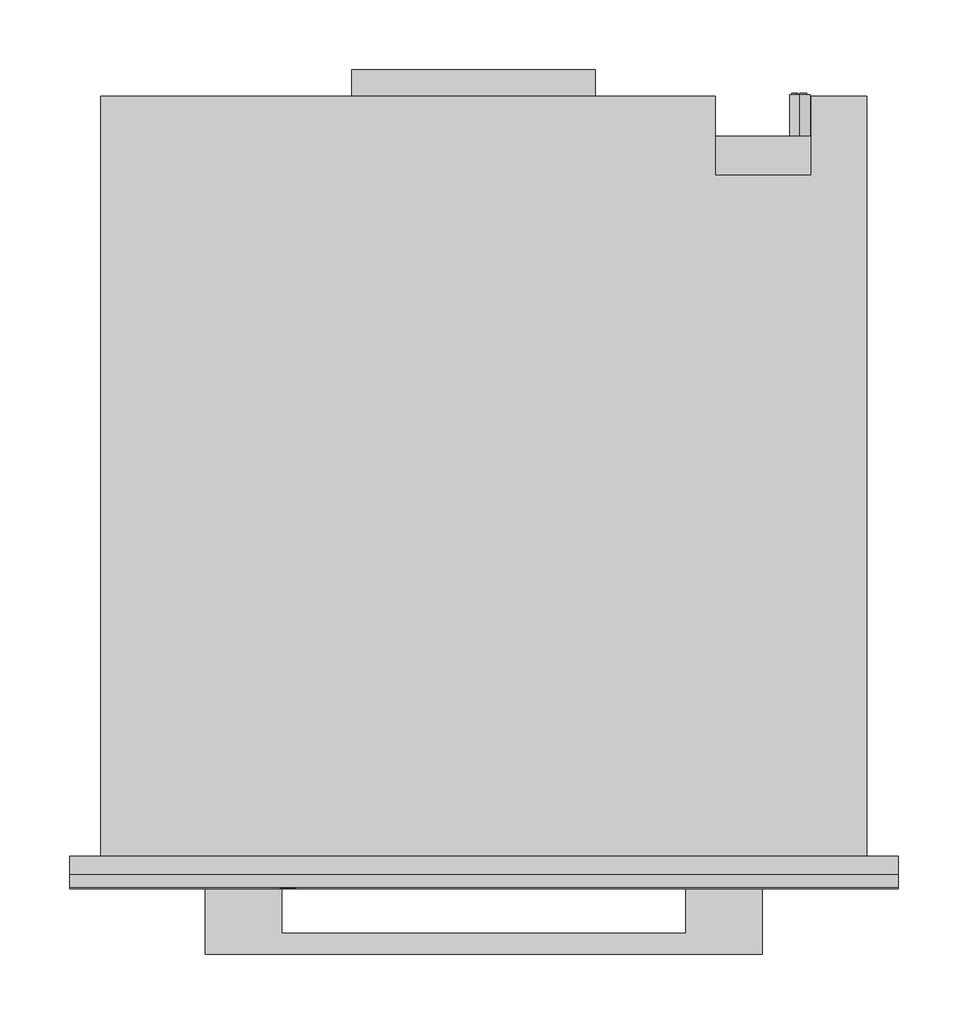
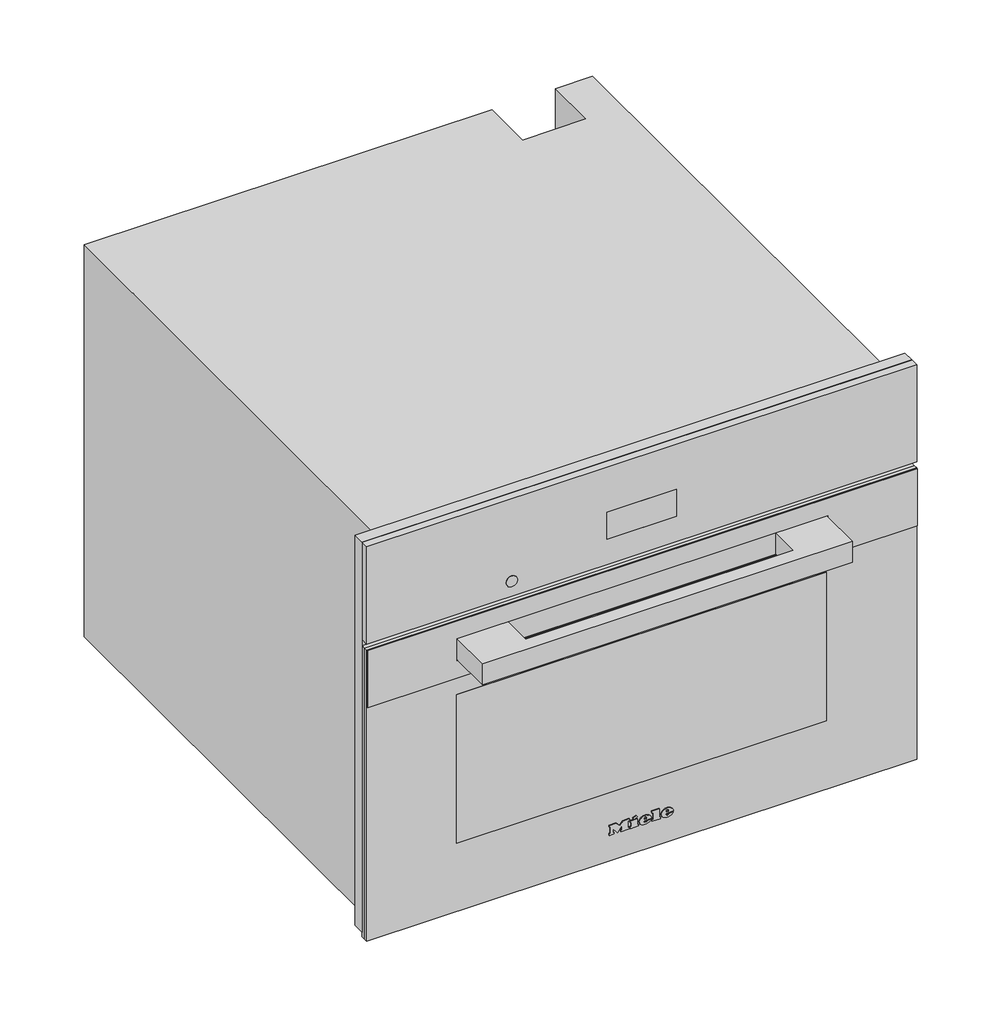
# Not in any storey: 1 proxy.
"""IFC4 building model written with IfcOpenShell, lengths in millimetres."""

import ifcopenshell
import ifcopenshell.guid

model = None  # the IFC model being written
_history = None  # IfcOwnerHistory: only IFC2X3 demands one
_inside = {}  # id of a spatial element -> (the spatial element, [elements in it])
_under = {}  # id of a project, library or spatial element -> (it, [spatial elements below it])
_declared = {}  # id of a project -> (the project, [libraries it declares])
_typed = {}  # id of a type object -> (the type object, [elements of that type])
_made_of = {}  # id of a material, layer set ... -> (it, [elements and type objects made of it])


def new_model(schema):
    """Start an empty IFC model of exactly this schema.

    Asked for "IFC4X3", IfcOpenShell would pick the latest addendum, in which some entities
    have other attributes; the version numbers below select the first issue.
    IFC2X3 requires an IfcOwnerHistory on every rooted entity: one is made here for all.
    """
    global model, _history
    if schema == "IFC4X3":
        model = ifcopenshell.file(schema_version=(4, 3, 0, 0))
    else:
        model = ifcopenshell.file(schema=schema)
    _inside.clear()
    _under.clear()
    _declared.clear()
    _typed.clear()
    _made_of.clear()
    _history = None
    if model.schema == "IFC2X3":
        org = make("IfcOrganization", Name="unknown")
        user = make(
            "IfcPersonAndOrganization",
            ThePerson=make("IfcPerson", FamilyName="unknown"),
            TheOrganization=org,
        )
        app = make(
            "IfcApplication",
            ApplicationDeveloper=org,
            Version="unknown",
            ApplicationFullName="unknown",
            ApplicationIdentifier="unknown",
        )
        _history = make(
            "IfcOwnerHistory",
            OwningUser=user,
            OwningApplication=app,
            ChangeAction="ADDED",
            CreationDate=0,
        )
    return model


def make(cls, **values):
    """One entity of the class cls with the attributes given. An attribute that is None is left unset."""
    return model.create_entity(
        cls, **{name: value for name, value in values.items() if value is not None}
    )


def rooted(cls, **values):
    """An entity with a GlobalId (a new one), such as an element, a storey or a relation."""
    return make(cls, GlobalId=ifcopenshell.guid.new(), OwnerHistory=_history, **values)


def si_unit(unit_type, name, prefix=None):
    """IfcSIUnit, for example si_unit("LENGTHUNIT", "METRE", prefix="MILLI")."""
    return make("IfcSIUnit", UnitType=unit_type, Prefix=prefix, Name=name)


def assignment(units):
    """IfcUnitAssignment: the units of a project."""
    return None if units is None else make("IfcUnitAssignment", Units=units)


def point(xyz):
    """IfcCartesianPoint."""
    return None if xyz is None else make("IfcCartesianPoint", Coordinates=xyz)


def direction(xyz):
    """IfcDirection."""
    return None if xyz is None else make("IfcDirection", DirectionRatios=xyz)


def frame(location, z_axis=None, x_axis=None):
    """IfcAxis2Placement3D, a coordinate frame: its origin and axes. An axis left out is left unset."""
    return make(
        "IfcAxis2Placement3D",
        Location=point(location),
        Axis=direction(z_axis),
        RefDirection=direction(x_axis),
    )


def frame_2d(location, x_axis=None):
    """IfcAxis2Placement2D, a coordinate frame in the plane: its origin and x axis."""
    return make(
        "IfcAxis2Placement2D", Location=point(location), RefDirection=direction(x_axis)
    )


def origin():
    """The frame at (0, 0, 0) with its axes left unset."""
    return frame((0.0, 0.0, 0.0))


def place(relative_to, where):
    """IfcLocalPlacement: puts the frame where relative to a parent placement (None: the world)."""
    return make(
        "IfcLocalPlacement", PlacementRelTo=relative_to, RelativePlacement=where
    )


def context(
    kind, dimensions, precision=None, world=None, true_north=None, identifier=None
):
    """IfcGeometricRepresentationContext, for example the 3D "Model" context."""
    return make(
        "IfcGeometricRepresentationContext",
        ContextIdentifier=identifier,
        ContextType=kind,
        CoordinateSpaceDimension=dimensions,
        Precision=precision,
        WorldCoordinateSystem=world,
        TrueNorth=true_north,
    )


def project(units=None, contexts=None):
    """IfcProject with its units and contexts."""
    return rooted(
        "IfcProject",
        Name="project",
        RepresentationContexts=contexts,
        UnitsInContext=assignment(units),
    )


def spatial(cls, under=None, at=None, **own):
    """A site, building, storey or space (cls), placed at a placement, below another one or the project."""
    s = rooted(cls, ObjectPlacement=at, **own)
    if under is not None:
        _under.setdefault(under.id(), (under, []))[1].append(s)
    return s


def polyline(points):
    """IfcPolyline through the points."""
    return make("IfcPolyline", Points=[point(p) for p in points])


def circle_curve(where, radius):
    """IfcCircle in the frame where."""
    return make("IfcCircle", Position=where, Radius=radius)


def ellipse_curve(where, semi_axis1, semi_axis2):
    """IfcEllipse in the frame where."""
    return make(
        "IfcEllipse", Position=where, SemiAxis1=semi_axis1, SemiAxis2=semi_axis2
    )


def trimmed(basis, trim1, trim2, sense, master):
    """IfcTrimmedCurve: the piece of a basis curve between two trims."""
    return make(
        "IfcTrimmedCurve",
        BasisCurve=basis,
        Trim1=trim1,
        Trim2=trim2,
        SenseAgreement=sense,
        MasterRepresentation=master,
    )


def segment(curve, same_sense, transition):
    """IfcCompositeCurveSegment."""
    return make(
        "IfcCompositeCurveSegment",
        Transition=transition,
        SameSense=same_sense,
        ParentCurve=curve,
    )


def composite_curve(segments, self_intersect=None):
    """IfcCompositeCurve: segments joined end to end."""
    return make("IfcCompositeCurve", Segments=segments, SelfIntersect=self_intersect)


def outline(outer, holes=None, kind="AREA"):
    """IfcArbitraryClosedProfileDef: a profile drawn as a closed curve; with holes, ...WithVoids."""
    if holes is None:
        return make("IfcArbitraryClosedProfileDef", ProfileType=kind, OuterCurve=outer)
    return make(
        "IfcArbitraryProfileDefWithVoids",
        ProfileType=kind,
        OuterCurve=outer,
        InnerCurves=holes,
    )


def extrude(swept, where, along, depth):
    """IfcExtrudedAreaSolid: the profile swept, set in the frame where, extruded along a direction by depth."""
    return make(
        "IfcExtrudedAreaSolid",
        SweptArea=swept,
        Position=where,
        ExtrudedDirection=direction(along),
        Depth=depth,
    )


def faces_of(points, faces, orient=None, outer=None):
    """IfcFace entities. A face is a list of loops; a loop is a list of indices into points, from 0.

    orient and outer hold one flag for each loop. By default every Orientation is true, the
    first loop of a face is its IfcFaceOuterBound and the others are IfcFaceBound.
    """
    made = []
    for i, loops in enumerate(faces):
        bounds = []
        for j, loop in enumerate(loops):
            is_outer = j == 0 if outer is None else outer[i][j]
            bounds.append(
                make(
                    "IfcFaceOuterBound" if is_outer else "IfcFaceBound",
                    Bound=make("IfcPolyLoop", Polygon=[points[k] for k in loop]),
                    Orientation=True if orient is None else orient[i][j],
                )
            )
        made.append(make("IfcFace", Bounds=bounds))
    return made


def faceted_brep(points, faces, orient=None, outer=None, voids=None):
    """IfcFacetedBrep: a solid bounded by flat faces; with voids (closed shells), ...WithVoids."""
    shared = [point(p) for p in points]
    hull = make("IfcClosedShell", CfsFaces=faces_of(shared, faces, orient, outer))
    if voids is None:
        return make("IfcFacetedBrep", Outer=hull)
    return make(
        "IfcFacetedBrepWithVoids",
        Outer=hull,
        Voids=[
            make(cls, CfsFaces=faces_of(shared, fs, o, b)) for cls, fs, o, b in voids
        ],
    )


def shape(context_of_items, identifier, shape_type, items):
    """IfcShapeRepresentation: the items that make up one representation, for example the "Body"."""
    return make(
        "IfcShapeRepresentation",
        ContextOfItems=context_of_items,
        RepresentationIdentifier=identifier,
        RepresentationType=shape_type,
        Items=items,
    )


def source(mapping_origin, context_of_items, identifier, shape_type, items):
    """IfcRepresentationMap: a shape defined once, which mapped items show again and again."""
    return make(
        "IfcRepresentationMap",
        MappingOrigin=mapping_origin,
        MappedRepresentation=shape(context_of_items, identifier, shape_type, items),
    )


def transform(
    local_origin,
    x_axis=None,
    y_axis=None,
    z_axis=None,
    scale=None,
    scale2=None,
    scale3=None,
    uniform=True,
):
    """IfcCartesianTransformationOperator3D, or its non-uniform kind. x_axis, y_axis, z_axis: its Axis1, 2, 3."""
    if uniform:
        return make(
            "IfcCartesianTransformationOperator3D",
            Axis1=direction(x_axis),
            Axis2=direction(y_axis),
            LocalOrigin=point(local_origin),
            Scale=scale,
            Axis3=direction(z_axis),
        )
    return make(
        "IfcCartesianTransformationOperator3DnonUniform",
        Axis1=direction(x_axis),
        Axis2=direction(y_axis),
        LocalOrigin=point(local_origin),
        Scale=scale,
        Axis3=direction(z_axis),
        Scale2=scale2,
        Scale3=scale3,
    )


def mapped(mapping_source, mapping_target):
    """IfcMappedItem: shows the shape of a source again, moved by a transform."""
    return make(
        "IfcMappedItem", MappingSource=mapping_source, MappingTarget=mapping_target
    )


def made_of(thing, what):
    """Note that an element or type object is made of a material, layer set ...; save() writes the relation."""
    if what is not None:
        _made_of.setdefault(what.id(), (what, []))[1].append(thing)
    return thing


def element(
    cls,
    number,
    at=None,
    inside=None,
    cuts=None,
    type_object=None,
    material=None,
    context=None,
    identifier="Body",
    shape_type=None,
    held_by="IfcProductDefinitionShape",
    body=None,
    shapes=None,
    **own,
):
    """One element of the class cls, such as IfcWall. Its Tag is "e" and its number.

    at: its placement. inside: the storey or other place that contains it. cuts: it is an
    opening in that element (IfcRelVoidsElement). A single representation is given by context,
    identifier, shape_type and body (its items); several are given by shapes. held_by: the class
    of the entity that holds the representations. save() writes the other relations.
    """
    e = rooted(cls, Tag="e%d" % number, ObjectPlacement=at, **own)
    if body is not None:
        shapes = [shape(context, identifier, shape_type, body)]
    if shapes is not None:
        e.Representation = make(held_by, Representations=shapes)
    if inside is not None:
        _inside.setdefault(inside.id(), (inside, []))[1].append(e)
    if cuts is not None:
        rooted(
            "IfcRelVoidsElement", RelatingBuildingElement=cuts, RelatedOpeningElement=e
        )
    if type_object is not None:
        _typed.setdefault(type_object.id(), (type_object, []))[1].append(e)
    return made_of(e, material)


def aggregate(whole, parts):
    """IfcRelAggregates: a whole, such as a stair, and the parts it consists of."""
    return rooted("IfcRelAggregates", RelatingObject=whole, RelatedObjects=parts)


def save(model, path):
    """Write the relations noted so far, then the file.

    IfcRelAggregates (storeys below a building ...), IfcRelContainedInSpatialStructure (elements
    in a storey), IfcRelDefinesByType, IfcRelAssociatesMaterial and IfcRelDeclares: one each for
    every whole, place, type object, material and project.
    """
    for whole, parts in _under.values():
        aggregate(whole, parts)
    for where, things in _inside.values():
        rooted(
            "IfcRelContainedInSpatialStructure",
            RelatedElements=things,
            RelatingStructure=where,
        )
    for kind, things in _typed.values():
        rooted("IfcRelDefinesByType", RelatedObjects=things, RelatingType=kind)
    for what, things in _made_of.values():
        rooted("IfcRelAssociatesMaterial", RelatedObjects=things, RelatingMaterial=what)
    for by, libraries in _declared.values():
        rooted("IfcRelDeclares", RelatingContext=by, RelatedDefinitions=libraries)
    model.write(path)


def plane_surface(at):
    """IfcPlane: the flat surface through the origin of the frame at, square to its z axis."""
    return make("IfcPlane", Position=at)


def cylinder_surface(at, radius):
    """IfcCylindricalSurface: all points at the distance radius from the z axis of the frame at."""
    return make("IfcCylindricalSurface", Position=at, Radius=radius)


def revolved_surface(curve, axis_point, axis_direction):
    """IfcSurfaceOfRevolution: the curve turned about the line through axis_point along axis_direction."""
    return make(
        "IfcSurfaceOfRevolution",
        SweptCurve=make("IfcArbitraryOpenProfileDef", ProfileType="CURVE", Curve=curve),
        AxisPosition=make("IfcAxis1Placement", Location=point(axis_point), Axis=direction(axis_direction)),
    )


def extruded_surface(curve, direction_of_extrusion, depth):
    """IfcSurfaceOfLinearExtrusion: the curve pushed along a direction by depth."""
    return make(
        "IfcSurfaceOfLinearExtrusion",
        SweptCurve=make("IfcArbitraryOpenProfileDef", ProfileType="CURVE", Curve=curve),
        ExtrudedDirection=direction(direction_of_extrusion),
        Depth=depth,
    )


def advanced_brep(points, edges, surfaces, faces):
    """IfcAdvancedBrep: a solid bounded by faces that lie on surfaces and meet in shared edges.

    An edge is (start, end): straight between two places in points (the first is 0);
    or (start, end, curve); or (start, end, curve, False) where it runs against its curve.
    A face is (place in surfaces, loops), or (place, loops, False) where it looks against
    its surface's normal. A loop lists edges by number (the first is 1), with a minus sign
    where the edge is run from its end to its start. The first loop is the outer one.
    """
    corners = [point(p) for p in points]
    vertices = [make("IfcVertexPoint", VertexGeometry=c) for c in corners]
    made = []
    for start, end, *more in edges:
        made.append(
            make(
                "IfcEdgeCurve",
                EdgeStart=vertices[start],
                EdgeEnd=vertices[end],
                EdgeGeometry=more[0] if more else make("IfcPolyline", Points=[corners[start], corners[end]]),
                SameSense=more[1] if len(more) > 1 else True,
            )
        )
    hull = []
    for where, loops, *sense in faces:
        bounds = []
        for j, loop in enumerate(loops):
            ring = [make("IfcOrientedEdge", EdgeElement=made[abs(k) - 1], Orientation=k > 0) for k in loop]
            bounds.append(
                make(
                    "IfcFaceOuterBound" if j == 0 else "IfcFaceBound",
                    Bound=make("IfcEdgeLoop", EdgeList=ring),
                    Orientation=True,
                )
            )
        hull.append(make("IfcAdvancedFace", Bounds=bounds, FaceSurface=surfaces[where], SameSense=sense[0] if sense else True))
    return make("IfcAdvancedBrep", Outer=make("IfcClosedShell", CfsFaces=hull))


def specialty_equipment_a3e2d18e(model_context):
    return source(origin(), model_context, "Body", "SolidModel", [
        extrude(outline(polyline([(455.0, 297.5), (455.0, -297.5), (9.0, -297.5), (9.0, 297.5), (455.0, 297.5)]), holes=[polyline([(344.0, -272.5), (344.0, 272.5), (27.0, 272.5), (27.0, -272.5), (344.0, -272.5)])]), frame((0.0, -13.0, 0.0), z_axis=(0.0, 1.0, 0.0), x_axis=(0.0, 0.0, 1.0)), (0.0, 0.0, 1.0), 13.0),
        extrude(outline(polyline([(-95.0, 565.0), (80.0, 565.0), (80.0, 546.0), (-95.0, 546.0), (-95.0, 565.0)])), frame((0.0, 0.0, 260.0), z_axis=(0.0, 0.0, 1.0), x_axis=(1.0, 0.0, 0.0)), (0.0, 0.0, 1.0), 1.0),
        advanced_brep(
        [(227.0, 547.0, 255.5), (227.0, 547.0, 240.5), (221.4098301, 547.0, 243.0), (225.5, 547.0, 243.0), (225.5, 547.0, 253.0), (224.4955303, 547.0, 253.0), (224.4955303, 547.0, 244.0), (221.0315043, 547.0, 244.0), (221.0315043, 547.0, 243.4582978), (232.0, 547.0, 243.0), (232.0, 547.0, 253.0), (227.0, 547.0, 253.0), (227.0, 547.0, 252.0), (231.0, 547.0, 252.0), (231.0, 547.0, 248.5), (228.0, 547.0, 248.5), (228.0, 547.0, 247.5), (231.0, 547.0, 247.5), (231.0, 547.0, 244.0), (227.0, 547.0, 244.0), (227.0, 547.0, 243.0), (227.0, 517.0, 240.5), (227.0, 517.0, 255.5), (232.0, 548.0, 253.0), (232.0, 548.0, 243.0), (227.0, 548.0, 243.0), (227.0, 548.0, 244.0), (231.0, 548.0, 244.0), (231.0, 548.0, 247.5), (228.0, 548.0, 247.5), (228.0, 548.0, 248.5), (231.0, 548.0, 248.5), (231.0, 548.0, 252.0), (227.0, 548.0, 252.0), (227.0, 548.0, 253.0), (225.5, 548.0, 243.0), (221.0315043, 548.0, 243.0), (221.0315043, 548.0, 244.0), (224.4955303, 548.0, 244.0), (224.4955303, 548.0, 253.0), (225.5, 548.0, 253.0), (221.0315043, 547.0, 243.0)],
        [
            (0, 1, circle_curve(frame((227.0, 547.0, 248.0), z_axis=(0.0, 1.0, 0.0), x_axis=(0.0, 0.0, 1.0)), 7.5)),
            (1, 2, circle_curve(frame((227.0, 547.0, 248.0), z_axis=(0.0, 1.0, 0.0), x_axis=(0.0, 0.0, 1.0)), 7.5)),
            (2, 3),
            (3, 4),
            (4, 5),
            (5, 6),
            (6, 7),
            (7, 8),
            (8, 0, circle_curve(frame((227.0, 547.0, 248.0), z_axis=(0.0, 1.0, 0.0), x_axis=(0.0, 0.0, 1.0)), 7.5)),
            (9, 10),
            (10, 11),
            (11, 12),
            (12, 13),
            (13, 14),
            (14, 15),
            (15, 16),
            (16, 17),
            (17, 18),
            (18, 19),
            (19, 20),
            (20, 9),
            (21, 22, circle_curve(frame((227.0, 517.0, 248.0), z_axis=(0.0, -1.0, 0.0), x_axis=(0.0, 0.0, 1.0)), 7.5)),
            (22, 21, circle_curve(frame((227.0, 517.0, 248.0), z_axis=(0.0, -1.0, 0.0), x_axis=(0.0, 0.0, 1.0)), 7.5)),
            (0, 22),
            (21, 1),
            (8, 2, circle_curve(frame((227.0, 547.0, 248.0), z_axis=(0.0, -1.0, 0.0), x_axis=(0.0, 0.0, 1.0)), 7.5)),
            (23, 24),
            (24, 25),
            (25, 26),
            (26, 27),
            (27, 28),
            (28, 29),
            (29, 30),
            (30, 31),
            (31, 32),
            (32, 33),
            (33, 34),
            (34, 23),
            (35, 36),
            (36, 37),
            (37, 38),
            (38, 39),
            (39, 40),
            (40, 35),
            (8, 41),
            (41, 2),
            (23, 10),
            (9, 24),
            (20, 25),
            (19, 26),
            (18, 27),
            (17, 28),
            (16, 29),
            (15, 30),
            (14, 31),
            (13, 32),
            (12, 33),
            (11, 34),
            (35, 3),
            (41, 36),
            (7, 37),
            (6, 38),
            (5, 39),
            (4, 40),
        ],
        [
            plane_surface(frame((227.0, 547.0, 255.5), z_axis=(0.0, 1.0, 0.0), x_axis=(1.0, 0.0, 0.0))),
            plane_surface(frame((227.0, 517.0, 255.5), z_axis=(0.0, -1.0, 0.0), x_axis=(-1.0, 0.0, 0.0))),
            cylinder_surface(frame((227.0, 547.0, 248.0), z_axis=(0.0, -1.0, 0.0), x_axis=(0.0, 0.0, 1.0)), 7.5),
            plane_surface(frame((232.0, 548.0, 253.0), z_axis=(0.0, 1.0, 0.0), x_axis=(0.0, 0.0, -1.0))),
            plane_surface(frame((232.0, 547.0, 253.0), z_axis=(0.0, -1.0, 0.0), x_axis=(0.0, 0.0, 1.0))),
            plane_surface(frame((232.0, 548.0, 253.0), z_axis=(1.0, 0.0, 0.0), x_axis=(0.0, -1.0, 0.0))),
            plane_surface(frame((232.0, 548.0, 243.0), z_axis=(0.0, 0.0, -1.0), x_axis=(0.0, -1.0, 0.0))),
            plane_surface(frame((227.0, 548.0, 243.0), z_axis=(-1.0, 0.0, 0.0), x_axis=(0.0, -1.0, 0.0))),
            plane_surface(frame((227.0, 548.0, 244.0), z_axis=(0.0, 0.0, 1.0), x_axis=(0.0, -1.0, 0.0))),
            plane_surface(frame((231.0, 548.0, 244.0), z_axis=(-1.0, 0.0, 0.0), x_axis=(0.0, -1.0, 0.0))),
            plane_surface(frame((231.0, 548.0, 247.5), z_axis=(0.0, 0.0, -1.0), x_axis=(0.0, -1.0, 0.0))),
            plane_surface(frame((228.0, 548.0, 247.5), z_axis=(-1.0, 0.0, 0.0), x_axis=(0.0, -1.0, 0.0))),
            plane_surface(frame((228.0, 548.0, 248.5), z_axis=(0.0, 0.0, 1.0), x_axis=(0.0, -1.0, 0.0))),
            plane_surface(frame((231.0, 548.0, 248.5), z_axis=(-1.0, 0.0, 0.0), x_axis=(0.0, -1.0, 0.0))),
            plane_surface(frame((231.0, 548.0, 252.0), z_axis=(0.0, 0.0, -1.0), x_axis=(0.0, -1.0, 0.0))),
            plane_surface(frame((227.0, 548.0, 252.0), z_axis=(-1.0, 0.0, 0.0), x_axis=(0.0, -1.0, 0.0))),
            plane_surface(frame((227.0, 548.0, 253.0), z_axis=(0.0, 0.0, 1.0), x_axis=(0.0, -1.0, 0.0))),
            plane_surface(frame((225.5, 548.0, 243.0), z_axis=(0.0, 0.0, -1.0), x_axis=(0.0, -1.0, 0.0))),
            plane_surface(frame((221.0315043, 548.0, 243.0), z_axis=(-1.0, 0.0, 0.0), x_axis=(0.0, -1.0, 0.0))),
            plane_surface(frame((221.0315043, 548.0, 244.0), z_axis=(0.0, 0.0, 1.0), x_axis=(0.0, -1.0, 0.0))),
            plane_surface(frame((224.4955303, 548.0, 244.0), z_axis=(-1.0, 0.0, 0.0), x_axis=(0.0, -1.0, 0.0))),
            plane_surface(frame((224.4955303, 548.0, 253.0), z_axis=(0.0, 0.0, 1.0), x_axis=(0.0, -1.0, 0.0))),
            plane_surface(frame((225.5, 548.0, 253.0), z_axis=(1.0, 0.0, 0.0), x_axis=(0.0, -1.0, 0.0))),
        ],
        [
            (0, [[1, 2, 3, 4, 5, 6, 7, 8, 9], [10, 11, 12, 13, 14, 15, 16, 17, 18, 19, 20, 21]]),
            (1, [[22, 23]]),
            (2, [[-1, 24, -22, 25]]),
            (2, [[-23, -24, -9, 26, -2, -25]]),
            (3, [[27, 28, 29, 30, 31, 32, 33, 34, 35, 36, 37, 38]]),
            (3, [[39, 40, 41, 42, 43, 44]]),
            (4, [[45, 46, -26]]),
            (5, [[-27, 47, -10, 48]]),
            (6, [[-28, -48, -21, 49]]),
            (7, [[-29, -49, -20, 50]]),
            (8, [[-30, -50, -19, 51]]),
            (9, [[-31, -51, -18, 52]]),
            (10, [[-32, -52, -17, 53]]),
            (11, [[-33, -53, -16, 54]]),
            (12, [[-34, -54, -15, 55]]),
            (13, [[-35, -55, -14, 56]]),
            (14, [[-36, -56, -13, 57]]),
            (15, [[-37, -57, -12, 58]]),
            (16, [[-38, -58, -11, -47]]),
            (17, [[-39, 59, -3, -46, 60]]),
            (18, [[-40, -60, -45, -8, 61]]),
            (19, [[-41, -61, -7, 62]]),
            (20, [[-42, -62, -6, 63]]),
            (21, [[-43, -63, -5, 64]]),
            (22, [[-44, -64, -4, -59]]),
        ],
    ),
        faceted_brep([(-275.0, 546.0, 0.0), (-275.0, 546.0, 448.0), (166.0, 546.0, 448.0), (166.0, 546.0, 0.0), (235.0, 546.0, 448.0), (275.0, 546.0, 448.0), (275.0, 546.0, 338.0), (235.0, 546.0, 338.0), (275.0, 0.0, 448.0), (-275.0, 0.0, 448.0), (-275.0, 0.0, 0.0), (275.0, 0.0, 0.0), (-272.5, 0.0, 344.0), (272.5, 0.0, 344.0), (272.5, 0.0, 27.0), (-272.5, 0.0, 27.0), (235.0, 489.0, 448.0), (166.0, 489.0, 448.0), (166.0, 517.0, 0.0), (275.0, 517.0, 0.0), (275.0, 517.0, 338.0), (272.5, 17.0, 344.0), (-272.5, 17.0, 344.0), (-272.5, 17.0, 27.0), (272.5, 17.0, 27.0), (231.0, 17.0, 307.0), (231.0, 17.0, 65.0), (-231.0, 17.0, 65.0), (-231.0, 17.0, 307.0), (231.0, 411.0, 307.0), (-231.0, 411.0, 307.0), (-231.0, 411.0, 65.0), (231.0, 411.0, 65.0), (235.0, 489.0, 337.0), (166.0, 489.0, 337.0), (166.0, 517.0, 337.0), (235.0, 517.0, 337.0), (235.0, 517.0, 338.0)], [[[0, 1, 2, 3]], [[4, 5, 6, 7]], [[8, 9, 10, 11], [12, 13, 14, 15]], [[9, 8, 5, 4, 16, 17, 2, 1]], [[1, 0, 10, 9]], [[11, 10, 0, 3, 18, 19]], [[8, 11, 19, 20, 6, 5]], [[21, 22, 23, 24], [25, 26, 27, 28]], [[22, 21, 13, 12]], [[23, 22, 12, 15]], [[24, 23, 15, 14]], [[21, 24, 14, 13]], [[29, 30, 31, 32]], [[29, 32, 26, 25]], [[32, 31, 27, 26]], [[31, 30, 28, 27]], [[30, 29, 25, 28]], [[16, 33, 34, 17]], [[17, 34, 35, 18, 3, 2]], [[34, 33, 36, 35]], [[33, 16, 4, 7, 37, 36]], [[37, 20, 19, 18, 35, 36]], [[20, 37, 7, 6]]]),
        advanced_brep(
        [(26.2998, -23.0, 36.7018), (26.2998, -23.0, 37.8532), (33.9264, -23.0, 37.8532), (20.6568, -23.0, 37.8532), (23.7918, -23.0, 34.0), (33.7326, -23.0, 36.7018), (30.2898, -23.0, 36.7018), (27.5766, -23.0, 35.425), (26.2998, -23.0, 39.3124), (26.2998, -23.0, 40.555), (28.2492, -23.0, 40.555), (28.2492, -23.0, 39.3124), (26.2998, -22.0, 36.7018), (27.5766, -22.0, 35.425), (30.2898, -22.0, 36.7018), (33.7326, -22.0, 36.7018), (23.7918, -22.0, 34.0), (20.6568, -22.0, 37.8532), (33.9264, -22.0, 37.8532), (26.2998, -22.0, 37.8532), (26.2998, -22.0, 39.3124), (28.2492, -22.0, 39.3124), (28.2492, -22.0, 40.555), (26.2998, -22.0, 40.555)],
        [
            (0, 1),
            (1, 2),
            (2, 3, ellipse_curve(frame((27.2916, -23.0, 37.8532), z_axis=(0.0, -1.0, 0.0), x_axis=(-1.0, 0.0, 0.0)), 6.6348, 5.4834)),
            (3, 4, circle_curve(frame((25.0686622, -23.0, 38.2408), z_axis=(0.0, -1.0, 0.0), x_axis=(0.0, 0.0, -1.0)), 4.4288556)),
            (4, 5, circle_curve(frame((27.1587808, -23.0, 41.2504), z_axis=(0.0, -1.0, 0.0), x_axis=(0.0, 0.0, -1.0)), 7.9940516)),
            (5, 6),
            (6, 7, circle_curve(frame((28.1338588, -23.0, 37.762), z_axis=(0.0, 1.0, 0.0), x_axis=(0.0, 0.0, -1.0)), 2.4025208)),
            (7, 0, circle_curve(frame((27.5766, -23.0, 36.7018), z_axis=(0.0, 1.0, 0.0), x_axis=(0.0, 0.0, -1.0)), 1.2768)),
            (8, 9),
            (9, 10, circle_curve(frame((27.2745, -23.0, 40.555), z_axis=(0.0, 1.0, 0.0), x_axis=(0.0, 0.0, -1.0)), 0.9747)),
            (10, 11),
            (11, 8),
            (12, 13, circle_curve(frame((27.5766, -22.0, 36.7018), z_axis=(0.0, -1.0, 0.0), x_axis=(0.0, 0.0, -1.0)), 1.2768)),
            (13, 14, circle_curve(frame((28.1338588, -22.0, 37.762), z_axis=(0.0, -1.0, 0.0), x_axis=(0.0, 0.0, -1.0)), 2.4025208)),
            (14, 15),
            (15, 16, circle_curve(frame((27.1587808, -22.0, 41.2504), z_axis=(0.0, 1.0, 0.0), x_axis=(0.0, 0.0, -1.0)), 7.9940516)),
            (16, 17, circle_curve(frame((25.0686622, -22.0, 38.2408), z_axis=(0.0, 1.0, 0.0), x_axis=(0.0, 0.0, -1.0)), 4.4288556)),
            (17, 18, ellipse_curve(frame((27.2916, -22.0, 37.8532), z_axis=(0.0, 1.0, 0.0), x_axis=(-1.0, 0.0, 0.0)), 6.6348, 5.4834)),
            (18, 19),
            (19, 12),
            (20, 21),
            (21, 22),
            (22, 23, circle_curve(frame((27.2745, -22.0, 40.555), z_axis=(0.0, -1.0, 0.0), x_axis=(0.0, 0.0, -1.0)), 0.9747)),
            (23, 20),
            (0, 12),
            (19, 1),
            (18, 2),
            (5, 15),
            (14, 6),
            (17, 3),
            (13, 7),
            (16, 4),
            (8, 20),
            (23, 9),
            (22, 10),
            (21, 11),
        ],
        [
            plane_surface(frame((26.2998, -23.0, 37.8532), z_axis=(0.0, -1.0, 0.0), x_axis=(0.0, 0.0, 1.0))),
            plane_surface(frame((26.2998, -22.0, 37.8532), z_axis=(0.0, 1.0, 0.0), x_axis=(0.0, 0.0, -1.0))),
            plane_surface(frame((26.2998, -23.0, 36.7018), z_axis=(1.0, 0.0, 0.0), x_axis=(0.0, 1.0, 0.0))),
            plane_surface(frame((26.2998, -23.0, 37.8532), z_axis=(0.0, 0.0, -1.0), x_axis=(0.0, 1.0, 0.0))),
            plane_surface(frame((33.7326, -23.0, 36.7018), z_axis=(0.0, 0.0, 1.0), x_axis=(0.0, 1.0, 0.0))),
            extruded_surface(trimmed(ellipse_curve(frame((27.2916, -21.0, 37.8532), z_axis=(0.0, -1.0, 0.0), x_axis=(-1.0, 0.0, 0.0)), 6.6348, 5.4834), [point((33.9264, -21.0, 37.8532))], [point((20.6568, -21.0, 37.8532))], True, "CARTESIAN"), (0.0, -1.0, 0.0), 1.0),
            revolved_surface(polyline([(28.1338588, -22.0, 35.3594792), (28.1338588, -23.0, 35.3594792)]), (28.1338588, -22.0, 37.762), (0.0, 1.0, 0.0)),
            revolved_surface(polyline([(27.5766, -22.0, 35.425), (27.5766, -23.0, 35.425)]), (27.5766, -22.0, 36.7018), (0.0, 1.0, 0.0)),
            cylinder_surface(frame((25.0686622, -22.0, 38.2408), z_axis=(0.0, -1.0, 0.0), x_axis=(0.0, 0.0, -1.0)), 4.4288556),
            cylinder_surface(frame((27.1587808, -22.0, 41.2504), z_axis=(0.0, -1.0, 0.0), x_axis=(0.0, 0.0, -1.0)), 7.9940516),
            plane_surface(frame((26.2998, -23.0, 39.3124), z_axis=(1.0, 0.0, 0.0), x_axis=(0.0, 1.0, 0.0))),
            revolved_surface(polyline([(27.2745, -22.0, 39.5803), (27.2745, -23.0, 39.5803)]), (27.2745, -22.0, 40.555), (0.0, 1.0, 0.0)),
            plane_surface(frame((28.2492, -23.0, 40.555), z_axis=(-1.0, 0.0, 0.0), x_axis=(0.0, 1.0, 0.0))),
            plane_surface(frame((28.2492, -23.0, 39.3124), z_axis=(0.0, 0.0, 1.0), x_axis=(0.0, 1.0, 0.0))),
        ],
        [
            (0, [[1, 2, 3, 4, 5, 6, 7, 8], [9, 10, 11, 12]]),
            (1, [[13, 14, 15, 16, 17, 18, 19, 20], [21, 22, 23, 24]]),
            (2, [[-1, 25, -20, 26]]),
            (3, [[-2, -26, -19, 27]]),
            (4, [[-6, 28, -15, 29]]),
            (5, [[-3, -27, -18, 30]]),
            (6, [[-7, -29, -14, 31]]),
            (7, [[-8, -31, -13, -25]]),
            (8, [[-4, -30, -17, 32]]),
            (9, [[-5, -32, -16, -28]]),
            (10, [[-9, 33, -24, 34]]),
            (11, [[-10, -34, -23, 35]]),
            (12, [[-11, -35, -22, 36]]),
            (13, [[-12, -36, -21, -33]]),
        ],
    ),
        advanced_brep(
        [(2.508, -23.0, 36.7018), (2.508, -23.0, 37.8532), (10.1346, -23.0, 37.8532), (-3.135, -23.0, 37.8532), (0.0, -23.0, 34.0), (9.9408, -23.0, 36.7018), (6.498, -23.0, 36.7018), (3.7848, -23.0, 35.425), (2.508, -23.0, 39.3124), (2.508, -23.0, 40.555), (4.4574, -23.0, 40.555), (4.4574, -23.0, 39.3124), (2.508, -22.0, 36.7018), (3.7848, -22.0, 35.425), (6.498, -22.0, 36.7018), (9.9408, -22.0, 36.7018), (0.0, -22.0, 34.0), (-3.135, -22.0, 37.8532), (10.1346, -22.0, 37.8532), (2.508, -22.0, 37.8532), (2.508, -22.0, 39.3124), (4.4574, -22.0, 39.3124), (4.4574, -22.0, 40.555), (2.508, -22.0, 40.555)],
        [
            (0, 1),
            (1, 2),
            (2, 3, ellipse_curve(frame((3.4998, -23.0, 37.8532), z_axis=(0.0, -1.0, 0.0), x_axis=(-1.0, 0.0, 0.0)), 6.6348, 5.4834)),
            (3, 4, circle_curve(frame((1.2768622, -23.0, 38.2408), z_axis=(0.0, -1.0, 0.0), x_axis=(0.0, 0.0, -1.0)), 4.4288556)),
            (4, 5, circle_curve(frame((3.3669808, -23.0, 41.2504), z_axis=(0.0, -1.0, 0.0), x_axis=(0.0, 0.0, -1.0)), 7.9940516)),
            (5, 6),
            (6, 7, circle_curve(frame((4.3420588, -23.0, 37.762), z_axis=(0.0, 1.0, 0.0), x_axis=(0.0, 0.0, -1.0)), 2.4025208)),
            (7, 0, circle_curve(frame((3.7848, -23.0, 36.7018), z_axis=(0.0, 1.0, 0.0), x_axis=(0.0, 0.0, -1.0)), 1.2768)),
            (8, 9),
            (9, 10, circle_curve(frame((3.4827, -23.0, 40.555), z_axis=(0.0, 1.0, 0.0), x_axis=(0.0, 0.0, -1.0)), 0.9747)),
            (10, 11),
            (11, 8),
            (12, 13, circle_curve(frame((3.7848, -22.0, 36.7018), z_axis=(0.0, -1.0, 0.0), x_axis=(0.0, 0.0, -1.0)), 1.2768)),
            (13, 14, circle_curve(frame((4.3420588, -22.0, 37.762), z_axis=(0.0, -1.0, 0.0), x_axis=(0.0, 0.0, -1.0)), 2.4025208)),
            (14, 15),
            (15, 16, circle_curve(frame((3.3669808, -22.0, 41.2504), z_axis=(0.0, 1.0, 0.0), x_axis=(0.0, 0.0, -1.0)), 7.9940516)),
            (16, 17, circle_curve(frame((1.2768622, -22.0, 38.2408), z_axis=(0.0, 1.0, 0.0), x_axis=(0.0, 0.0, -1.0)), 4.4288556)),
            (17, 18, ellipse_curve(frame((3.4998, -22.0, 37.8532), z_axis=(0.0, 1.0, 0.0), x_axis=(-1.0, 0.0, 0.0)), 6.6348, 5.4834)),
            (18, 19),
            (19, 12),
            (20, 21),
            (21, 22),
            (22, 23, circle_curve(frame((3.4827, -22.0, 40.555), z_axis=(0.0, -1.0, 0.0), x_axis=(0.0, 0.0, -1.0)), 0.9747)),
            (23, 20),
            (0, 12),
            (19, 1),
            (18, 2),
            (5, 15),
            (14, 6),
            (17, 3),
            (13, 7),
            (16, 4),
            (8, 20),
            (23, 9),
            (22, 10),
            (21, 11),
        ],
        [
            plane_surface(frame((2.508, -23.0, 37.8532), z_axis=(0.0, -1.0, 0.0), x_axis=(0.0, 0.0, 1.0))),
            plane_surface(frame((2.508, -22.0, 37.8532), z_axis=(0.0, 1.0, 0.0), x_axis=(0.0, 0.0, -1.0))),
            plane_surface(frame((2.508, -23.0, 36.7018), z_axis=(1.0, 0.0, 0.0), x_axis=(0.0, 1.0, 0.0))),
            plane_surface(frame((2.508, -23.0, 37.8532), z_axis=(0.0, 0.0, -1.0), x_axis=(0.0, 1.0, 0.0))),
            plane_surface(frame((9.9408, -23.0, 36.7018), z_axis=(0.0, 0.0, 1.0), x_axis=(0.0, 1.0, 0.0))),
            extruded_surface(trimmed(ellipse_curve(frame((3.4998, -21.0, 37.8532), z_axis=(0.0, -1.0, 0.0), x_axis=(-1.0, 0.0, 0.0)), 6.6348, 5.4834), [point((10.1346, -21.0, 37.8532))], [point((-3.135, -21.0, 37.8532))], True, "CARTESIAN"), (0.0, -1.0, 0.0), 1.0),
            revolved_surface(polyline([(4.3420588, -22.0, 35.3594792), (4.3420588, -23.0, 35.3594792)]), (4.3420588, -22.0, 37.762), (0.0, 1.0, 0.0)),
            revolved_surface(polyline([(3.7848, -22.0, 35.425), (3.7848, -23.0, 35.425)]), (3.7848, -22.0, 36.7018), (0.0, 1.0, 0.0)),
            cylinder_surface(frame((1.2768622, -22.0, 38.2408), z_axis=(0.0, -1.0, 0.0), x_axis=(0.0, 0.0, -1.0)), 4.4288556),
            cylinder_surface(frame((3.3669808, -22.0, 41.2504), z_axis=(0.0, -1.0, 0.0), x_axis=(0.0, 0.0, -1.0)), 7.9940516),
            plane_surface(frame((2.508, -23.0, 39.3124), z_axis=(1.0, 0.0, 0.0), x_axis=(0.0, 1.0, 0.0))),
            revolved_surface(polyline([(3.4827, -22.0, 39.5803), (3.4827, -23.0, 39.5803)]), (3.4827, -22.0, 40.555), (0.0, 1.0, 0.0)),
            plane_surface(frame((4.4574, -23.0, 40.555), z_axis=(-1.0, 0.0, 0.0), x_axis=(0.0, 1.0, 0.0))),
            plane_surface(frame((4.4574, -23.0, 39.3124), z_axis=(0.0, 0.0, 1.0), x_axis=(0.0, 1.0, 0.0))),
        ],
        [
            (0, [[1, 2, 3, 4, 5, 6, 7, 8], [9, 10, 11, 12]]),
            (1, [[13, 14, 15, 16, 17, 18, 19, 20], [21, 22, 23, 24]]),
            (2, [[-1, 25, -20, 26]]),
            (3, [[-2, -26, -19, 27]]),
            (4, [[-6, 28, -15, 29]]),
            (5, [[-3, -27, -18, 30]]),
            (6, [[-7, -29, -14, 31]]),
            (7, [[-8, -31, -13, -25]]),
            (8, [[-4, -30, -17, 32]]),
            (9, [[-5, -32, -16, -28]]),
            (10, [[-9, 33, -24, 34]]),
            (11, [[-10, -34, -23, 35]]),
            (12, [[-11, -35, -22, 36]]),
            (13, [[-12, -36, -21, -33]]),
        ],
    ),
        extrude(outline(polyline([(44.7274, -9.9522), (42.8806, -9.0858), (44.6818, -5.2212), (46.5286, -6.0762), (44.7274, -9.9522)])), frame((0.0, -23.0, 0.0), z_axis=(0.0, 1.0, 0.0), x_axis=(0.0, 0.0, 1.0)), (0.0, 0.0, 1.0), 1.0),
        extrude(outline(polyline([(42.6298, -12.768), (40.5892, -12.768), (40.5892, -11.4114), (35.9152, -11.4114), (35.9152, -12.768), (34.0, -12.768), (34.0, -3.7734), (35.9152, -3.7734), (35.9152, -5.0958), (42.6298, -5.0958), (42.6298, -12.768)])), frame((0.0, -23.0, 0.0), z_axis=(0.0, 1.0, 0.0), x_axis=(0.0, 0.0, 1.0)), (0.0, 0.0, 1.0), 1.0),
        extrude(outline(polyline([(43.5418, 10.773), (43.5418, 12.141), (35.9152, 12.141), (35.9152, 10.773), (34.0, 10.773), (34.0, 20.0184), (35.9152, 20.0184), (35.9152, 18.6162), (45.4, 18.6162), (45.4, 10.773), (43.5418, 10.773)])), frame((0.0, -23.0, 0.0), z_axis=(0.0, 1.0, 0.0), x_axis=(0.0, 0.0, 1.0)), (0.0, 0.0, 1.0), 1.0),
        extrude(outline(polyline([(43.5418, -35.4882), (43.5418, -34.1088), (35.9152, -34.1088), (35.9152, -35.4882), (34.0, -35.4882), (34.0, -30.4722), (35.9152, -30.4722), (35.9152, -31.8402), (40.7429247, -31.8402), (34.0, -26.7444), (40.9402223, -21.6258), (35.9152, -21.6258), (35.9152, -23.028), (34.0, -23.028), (34.0, -13.9308), (35.9152, -13.9308), (35.9152, -15.3786), (43.5418, -15.3786), (43.5418, -13.9308), (45.4, -13.9308), (45.4, -20.8734), (41.125, -24.2022), (45.4, -27.5424), (45.4, -35.4882), (43.5418, -35.4882)])), frame((0.0, -23.0, 0.0), z_axis=(0.0, 1.0, 0.0), x_axis=(0.0, 0.0, 1.0)), (0.0, 0.0, 1.0), 1.0),
        extrude(outline(composite_curve([segment(trimmed(circle_curve(frame_2d((361.0, -140.5745637)), 6.0), [point((361.0, -146.5745637))], [point((361.0, -134.5745637))], False, "CARTESIAN"), True, "CONTINUOUS"), segment(trimmed(circle_curve(frame_2d((361.0, -140.5745637)), 6.0), [point((361.0, -134.5745637))], [point((361.0, -146.5745637))], False, "CARTESIAN"), True, "CONTINUOUS")], self_intersect=False)), frame((0.0, -22.5, 0.0), z_axis=(0.0, 1.0, 0.0), x_axis=(0.0, 0.0, 1.0)), (0.0, 0.0, 1.0), 1.0),
        extrude(outline(polyline([(-37.5, -21.0), (37.5, -21.0), (37.5, -22.0), (-37.5, -22.0), (-37.5, -21.0)])), frame((0.0, 0.0, 373.0), z_axis=(0.0, 0.0, 1.0), x_axis=(1.0, 0.0, 0.0)), (0.0, 0.0, 1.0), 30.5),
        faceted_brep([(297.5, -22.0, 455.0), (-297.5, -22.0, 455.0), (-297.5, -22.0, 344.0), (297.5, -22.0, 344.0), (37.5, -22.0, 403.5), (37.5, -22.0, 373.0), (-37.5, -22.0, 373.0), (-37.5, -22.0, 403.5), (297.5, -13.0, 455.0), (297.5, -13.0, 344.0), (-297.5, -13.0, 344.0), (-297.5, -13.0, 455.0), (37.5, -21.0, 403.5), (-37.5, -21.0, 403.5), (-37.5, -21.0, 373.0), (37.5, -21.0, 373.0)], [[[0, 1, 2, 3], [4, 5, 6, 7]], [[8, 9, 10, 11]], [[1, 0, 8, 11]], [[2, 1, 11, 10]], [[3, 2, 10, 9]], [[0, 3, 9, 8]], [[12, 13, 14, 15]], [[12, 15, 5, 4]], [[15, 14, 6, 5]], [[14, 13, 7, 6]], [[13, 12, 4, 7]]]),
        extrude(outline(polyline([(200.0, -22.0), (-200.0, -22.0), (-200.0, -18.0), (200.0, -18.0), (200.0, -22.0)])), frame((0.0, 0.0, 82.0), z_axis=(0.0, 0.0, 1.0), x_axis=(1.0, 0.0, 0.0)), (0.0, 0.0, 1.0), 170.0),
        extrude(outline(polyline([(337.0, 297.5), (337.0, -297.5), (4.0, -297.5), (4.0, 297.5), (337.0, 297.5)]), holes=[polyline([(252.0, -200.0), (252.0, 200.0), (82.0, 200.0), (82.0, -200.0), (252.0, -200.0)])]), frame((0.0, -22.0, 0.0), z_axis=(0.0, 1.0, 0.0), x_axis=(0.0, 0.0, 1.0)), (0.0, 0.0, 1.0), 4.0),
        extrude(outline(polyline([(337.0, 297.5), (337.0, -297.5), (272.0, -297.5), (272.0, 297.5), (337.0, 297.5)]), holes=[polyline([(317.0, -200.5), (317.0, 200.5), (292.0, 200.5), (292.0, -200.5), (317.0, -200.5)])]), frame((0.0, -23.3, 0.0), z_axis=(0.0, 1.0, 0.0), x_axis=(0.0, 0.0, 1.0)), (0.0, 0.0, 1.0), 1.3),
        extrude(outline(polyline([(-200.0, -70.3), (-200.0, -22.0), (-145.0, -22.0), (-145.0, -55.3), (145.0, -55.3), (145.0, -22.0), (200.0, -22.0), (200.0, -70.3), (-200.0, -70.3)])), frame((0.0, 0.0, 292.5), z_axis=(0.0, 0.0, 1.0), x_axis=(1.0, 0.0, 0.0)), (0.0, 0.0, 1.0), 24.0),
        extrude(outline(polyline([(297.5, -18.0), (-297.5, -18.0), (-297.5, -13.0), (297.5, -13.0), (297.5, -18.0)])), frame((0.0, 0.0, 4.0), z_axis=(0.0, 0.0, 1.0), x_axis=(1.0, 0.0, 0.0)), (0.0, 0.0, 1.0), 333.0),
    ])


model = new_model("IFC4")

# Units and contexts
model_context = context("Model", 3, world=origin())
ifc_project = project(units=[si_unit("LENGTHUNIT", "METRE", prefix="MILLI")], contexts=[model_context])

# Site, building
site = spatial("IfcSite", under=ifc_project)
building = spatial("IfcBuilding", under=site)

# Proxy
placement = place(None, origin())
specialty_equipment_shape = specialty_equipment_a3e2d18e(model_context)
element("IfcBuildingElementProxy", 1, Name="11876950_USA_DGC7440_EDST-CLST : 23744042_USA_11876950_DGC7440_EDST-CLST", ObjectType="11876950_USA_DGC7440_EDST-CLST : 23744042_USA_11876950_DGC7440_EDST-CLST", at=placement, inside=building, context=model_context, shape_type="MappedRepresentation", body=[
    mapped(specialty_equipment_shape, transform((0.0, 0.0, 0.0), x_axis=(1.0, 0.0, 0.0), y_axis=(0.0, 1.0, 0.0), z_axis=(0.0, 0.0, 1.0))),
])

save(model, "model.ifc")
